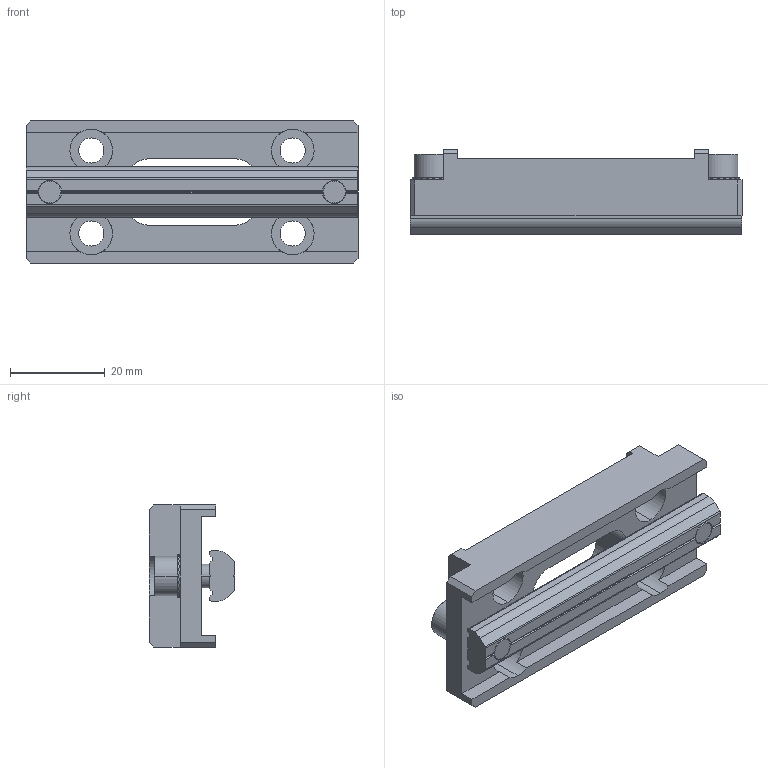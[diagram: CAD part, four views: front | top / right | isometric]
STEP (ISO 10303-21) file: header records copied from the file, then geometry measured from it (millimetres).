
FILE_DESCRIPTION (( 'STEP AP214' ), '1' );
FILE_NAME ('SMBD-5070.STEP', '2019-10-31T06:50:18', ( '微软用户' ), ( '微软中国' ), 'SwSTEP 2.0', 'SolidWorks 2016', '' );
FILE_SCHEMA (( 'AUTOMOTIVE_DESIGN' ));
Length unit declared in the file: millimetre
Products named in the file (5): PTN-M5P60; PTS-M5; PTC-M5L12; SMBD-5070
Assembly tree (6 placements, depth 2):
  SMBD-5070
    SMBD-5070
    PTC-M5L12  x2
    PTS-M5  x2
    PTN-M5P60
Bounding box: 70 x 18.05 x 30 mm (x, y, z)
Volume: 17095.7 mm3; surface area: 11162 mm2
Topology: 6 solids, 6 shells, 484 faces, 1416 edges, 940 vertices
Faces by surface type: plane 408, cylinder 64, cone 12
Entity records: 10402 total; most frequent: CARTESIAN_POINT 1969, ORIENTED_EDGE 1764, DIRECTION 1746, EDGE_CURVE 882, AXIS2_PLACEMENT_3D 587, VERTEX_POINT 586, LINE 572, VECTOR 572
